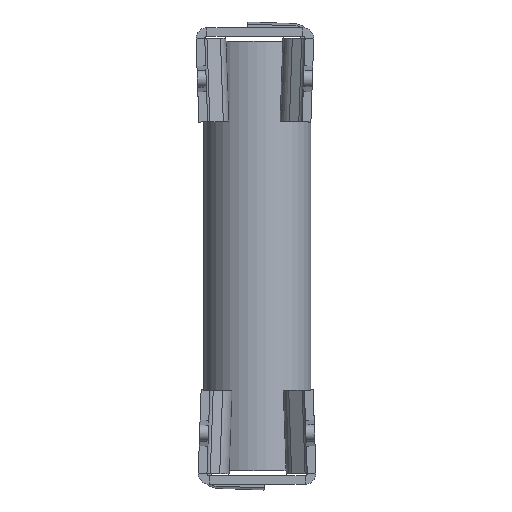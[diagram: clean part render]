
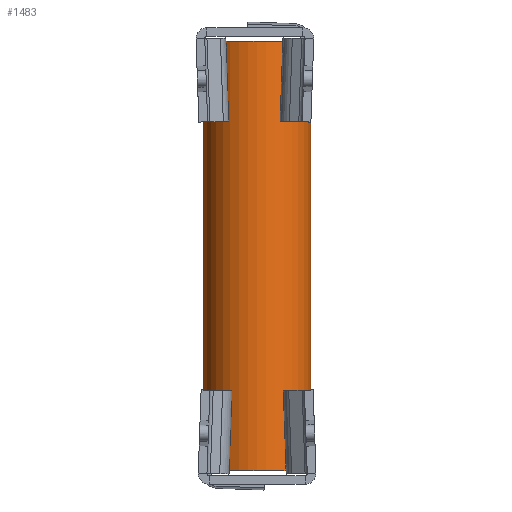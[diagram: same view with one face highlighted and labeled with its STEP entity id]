
A CAD part, front view. The second image highlights one B-rep face of the part: STEP entity #1483.
In plain terms, the highlighted cylindrical face has radius 2.5 mm (diameter 5 mm), a full revolution.
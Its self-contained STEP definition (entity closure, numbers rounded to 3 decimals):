
#169=FACE_OUTER_BOUND('',#253,.T.);
#253=EDGE_LOOP('',(#1374,#1375,#1376,#1377));
#406=LINE('',#2543,#558);
#558=VECTOR('',#2067,2.5);
#615=CIRCLE('',#1634,2.5);
#616=CIRCLE('',#1636,2.5);
#747=VERTEX_POINT('',#2538);
#748=VERTEX_POINT('',#2541);
#956=EDGE_CURVE('',#747,#747,#615,.T.);
#957=EDGE_CURVE('',#748,#748,#616,.T.);
#958=EDGE_CURVE('',#748,#747,#406,.T.);
#1374=ORIENTED_EDGE('',*,*,#957,.F.);
#1375=ORIENTED_EDGE('',*,*,#958,.T.);
#1376=ORIENTED_EDGE('',*,*,#956,.F.);
#1377=ORIENTED_EDGE('',*,*,#958,.F.);
#1401=CYLINDRICAL_SURFACE('',#1635,2.5);
#1483=ADVANCED_FACE('',(#169),#1401,.T.);
#1634=AXIS2_PLACEMENT_3D('',#2539,#2061,#2062);
#1635=AXIS2_PLACEMENT_3D('',#2540,#2063,#2064);
#1636=AXIS2_PLACEMENT_3D('',#2542,#2065,#2066);
#2061=DIRECTION('center_axis',(0.,0.,-1.));
#2062=DIRECTION('ref_axis',(1.,0.,0.));
#2063=DIRECTION('center_axis',(0.,0.,1.));
#2064=DIRECTION('ref_axis',(1.,0.,0.));
#2065=DIRECTION('center_axis',(0.,0.,1.));
#2066=DIRECTION('ref_axis',(1.,0.,0.));
#2067=DIRECTION('',(0.,0.,-1.));
#2538=CARTESIAN_POINT('',(-2.5,6.35,-3.478));
#2539=CARTESIAN_POINT('Origin',(0.,6.35,-3.478));
#2540=CARTESIAN_POINT('Origin',(0.,6.35,6.522));
#2541=CARTESIAN_POINT('',(-2.5,6.35,16.522));
#2542=CARTESIAN_POINT('Origin',(0.,6.35,16.522));
#2543=CARTESIAN_POINT('',(-2.5,6.35,6.522));
